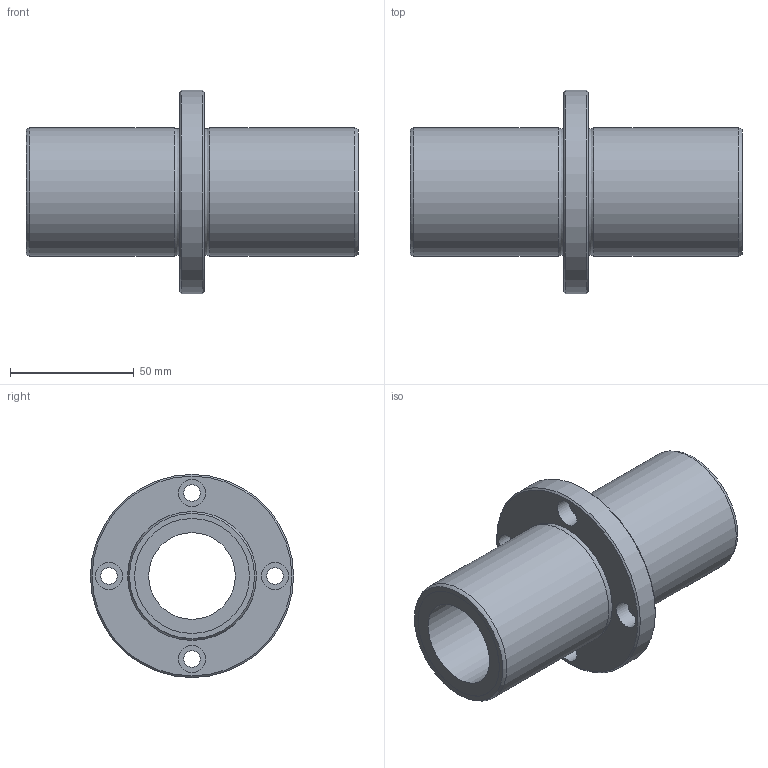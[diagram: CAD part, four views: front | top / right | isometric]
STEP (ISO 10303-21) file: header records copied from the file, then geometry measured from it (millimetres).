
FILE_DESCRIPTION((''),'2;1');
FILE_NAME('D:\製品 (図面)\カタログ用3D\リニアベアリング関連\STEP形式\LFDC\LFDC35.stp','2010-06-03T09:28:32',('Tsuchiya'),(''),'Autodesk Inventor 10','Autodesk Inventor 10','');
FILE_SCHEMA(('AUTOMOTIVE_DESIGN { 1 0 10303 214 1 1 1 1 }'));
Length unit declared in the file: millimetre
Products named in the file (1): LFDC35
Bounding box: 134 x 82 x 82 mm (x, y, z)
Volume: 183580.4 mm3; surface area: 46860.8 mm2
Topology: 1 solids, 1 shells, 30 faces, 54 edges, 34 vertices
Faces by surface type: cylinder 14, plane 10, cone 2, torus 2, bspline 2
Full cylindrical faces by diameter (mm): 6.6 x4, 11 x4, 35 x1, 46.4 x2, 52 x2, 82 x1
Entity records: 803 total; most frequent: CARTESIAN_POINT 223, DIRECTION 126, ORIENTED_EDGE 68, EDGE_LOOP 68, AXIS2_PLACEMENT_3D 63, FACE_BOUND 38, VERTEX_POINT 34, CIRCLE 34
